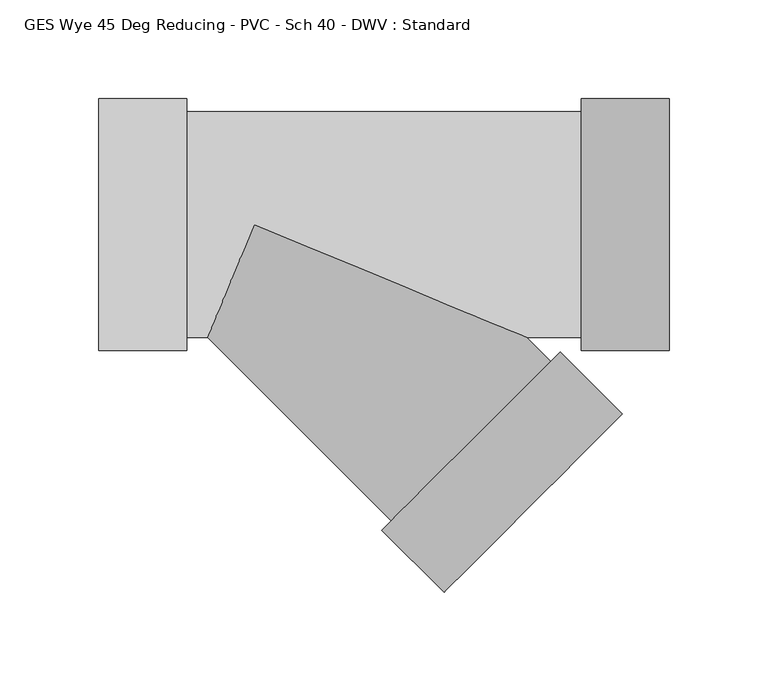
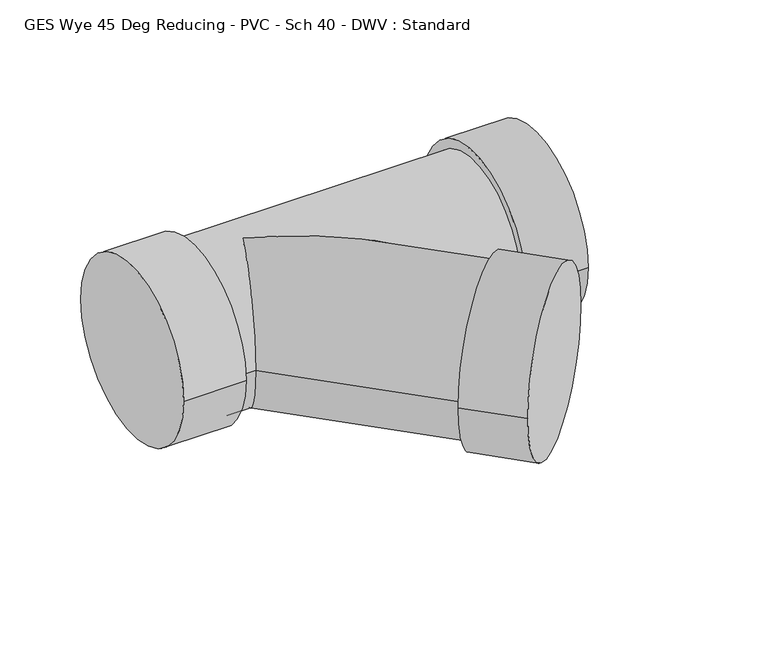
"""IFC4 building model written with IfcOpenShell, lengths in millimetres: pipe fitting geometry, GES Wye 45 Deg Reducing - PVC - Sch 40 - DWV : Standard."""

from ifc_helpers import new_model, si_unit, frame, origin, place, context, project, spatial, circle_curve, ellipse_curve, source, transform, mapped, element, save
from ifc_brep_helpers import plane_surface, cylinder_surface, advanced_brep


def ges_wye_45_deg_reducing_pvc_sch_40_dwv_standard_4e502147(model_context):
    return source(origin(), model_context, "Body", "AdvancedBrep", [
        advanced_brep(
        [(-34.2622187, 63.754, 0.0), (-34.2622187, -63.754, 0.0), (-34.2622187, 57.15, 0.0), (-34.2622187, -57.15, 0.0), (-78.7122187, 63.754, 0.0), (-78.7122187, -63.754, 0.0), (165.6159375, -63.754, 0.0), (165.6159375, 63.754, 0.0), (165.6159375, -57.15, 0.0), (165.6159375, 57.15, 0.0), (210.0659375, -63.754, 0.0), (210.0659375, 63.754, 0.0), (137.9790209, -57.15, 0.0), (0.0, 0.0, -57.15), (-23.6711529, -57.15, 0.0), (0.0, 0.0, 57.15), (69.3074871, -150.1222401, 0.0), (150.1270105, -69.2971534, 0.0), (64.6379146, -154.792134, 0.0), (154.7965829, -64.6272595, 0.0), (96.0698928, -186.2219487, 0.0), (186.2285611, -96.0570742, 0.0)],
        [
            (0, 1, circle_curve(frame((-34.2622187, 0.0, 0.0), z_axis=(1.0, 0.0, 0.0), x_axis=(0.0, -1.0, 0.0)), 63.754)),
            (1, 0, circle_curve(frame((-34.2622187, 0.0, 0.0), z_axis=(1.0, 0.0, 0.0), x_axis=(0.0, -1.0, 0.0)), 63.754)),
            (2, 3, circle_curve(frame((-34.2622187, 0.0, 0.0), z_axis=(-1.0, 0.0, 0.0), x_axis=(0.0, 0.0, -1.0)), 57.15)),
            (3, 2, circle_curve(frame((-34.2622187, 0.0, 0.0), z_axis=(-1.0, 0.0, 0.0), x_axis=(0.0, 0.0, 1.0)), 57.15)),
            (4, 5, circle_curve(frame((-78.7122187, 0.0, 0.0), z_axis=(-1.0, 0.0, 0.0), x_axis=(0.0, -1.0, 0.0)), 63.754)),
            (5, 4, circle_curve(frame((-78.7122187, 0.0, 0.0), z_axis=(-1.0, 0.0, 0.0), x_axis=(0.0, -1.0, 0.0)), 63.754)),
            (0, 4),
            (5, 1),
            (6, 7, circle_curve(frame((165.6159375, 0.0, 0.0), z_axis=(-1.0, 0.0, 0.0), x_axis=(0.0, 1.0, 0.0)), 63.754)),
            (7, 6, circle_curve(frame((165.6159375, 0.0, 0.0), z_axis=(-1.0, 0.0, 0.0), x_axis=(0.0, 1.0, 0.0)), 63.754)),
            (8, 9, circle_curve(frame((165.6159375, 0.0, 0.0), z_axis=(1.0, 0.0, 0.0), x_axis=(0.0, 0.0, -1.0)), 57.15)),
            (9, 8, circle_curve(frame((165.6159375, 0.0, 0.0), z_axis=(1.0, 0.0, 0.0), x_axis=(0.0, 0.0, 1.0)), 57.15)),
            (10, 11, circle_curve(frame((210.0659375, 0.0, 0.0), z_axis=(1.0, 0.0, 0.0), x_axis=(0.0, 1.0, 0.0)), 63.754)),
            (11, 10, circle_curve(frame((210.0659375, 0.0, 0.0), z_axis=(1.0, 0.0, 0.0), x_axis=(0.0, 1.0, 0.0)), 63.754)),
            (6, 10),
            (11, 7),
            (2, 9),
            (8, 12),
            (12, 13, ellipse_curve(frame((0.0, 0.0, 0.0), z_axis=(0.3826675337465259, 0.9238861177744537, 0.0), x_axis=(0.9238861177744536, -0.382667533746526, 0.0)), 149.3463515, 57.15)),
            (13, 14, ellipse_curve(frame((0.0, 0.0, 0.0), z_axis=(-0.9238861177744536, 0.38266753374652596, 0.0), x_axis=(0.38266753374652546, 0.9238861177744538, 0.0)), 61.8582733, 57.15)),
            (14, 3),
            (14, 15, ellipse_curve(frame((0.0, 0.0, 0.0), z_axis=(-0.9238861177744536, 0.38266753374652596, 0.0), x_axis=(0.38266753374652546, 0.9238861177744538, 0.0)), 61.8582733, 57.15)),
            (15, 12, ellipse_curve(frame((0.0, 0.0, 0.0), z_axis=(0.3826675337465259, 0.9238861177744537, 0.0), x_axis=(0.9238861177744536, -0.382667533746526, 0.0)), 149.3463515, 57.15)),
            (14, 16),
            (16, 17, circle_curve(frame((109.7172488, -109.7096968, 0.0), z_axis=(-0.7071311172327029, 0.7070824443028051, 0.0), x_axis=(0.7070824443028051, 0.7071311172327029, 0.0)), 57.15)),
            (17, 12),
            (17, 16, circle_curve(frame((109.7172488, -109.7096968, 0.0), z_axis=(-0.7071311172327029, 0.7070824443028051, 0.0), x_axis=(0.7070824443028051, 0.7071311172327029, 0.0)), 57.15)),
            (18, 19, circle_curve(frame((109.7172488, -109.7096968, 0.0), z_axis=(-0.7071311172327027, 0.7070824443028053, 0.0), x_axis=(0.7070824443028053, 0.7071311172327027, 0.0)), 63.754)),
            (19, 18, circle_curve(frame((109.7172488, -109.7096968, 0.0), z_axis=(-0.7071311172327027, 0.7070824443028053, 0.0), x_axis=(0.7070824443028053, 0.7071311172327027, 0.0)), 63.754)),
            (20, 21, circle_curve(frame((141.1492269, -141.1395114, 0.0), z_axis=(0.7071311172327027, -0.7070824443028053, 0.0), x_axis=(0.7070824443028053, 0.7071311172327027, 0.0)), 63.754)),
            (21, 20, circle_curve(frame((141.1492269, -141.1395114, 0.0), z_axis=(0.7071311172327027, -0.7070824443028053, 0.0), x_axis=(0.7070824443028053, 0.7071311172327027, 0.0)), 63.754)),
            (18, 20),
            (21, 19),
        ],
        [
            plane_surface(frame((-34.2622187, 0.0, 0.0), z_axis=(1.0, 0.0, 0.0), x_axis=(0.0, 0.0, 1.0))),
            plane_surface(frame((-78.7122187, 0.0, 0.0), z_axis=(-1.0, 0.0, 0.0), x_axis=(0.0, 0.0, 1.0))),
            cylinder_surface(frame((-34.2622187, 0.0, 0.0), z_axis=(1.0, 0.0, 0.0), x_axis=(0.0, -1.0, 0.0)), 63.754),
            plane_surface(frame((165.6159375, 0.0, 0.0), z_axis=(-1.0, 0.0, 0.0), x_axis=(0.0, 0.0, 1.0))),
            plane_surface(frame((210.0659375, 0.0, 0.0), z_axis=(1.0, 0.0, 0.0), x_axis=(0.0, 0.0, 1.0))),
            cylinder_surface(frame((165.6159375, 0.0, 0.0), z_axis=(-1.0, 0.0, 0.0), x_axis=(0.0, 1.0, 0.0)), 63.754),
            cylinder_surface(frame((-34.2622187, 0.0, 0.0), z_axis=(1.0, 0.0, 0.0), x_axis=(0.0, 0.0, -1.0)), 57.15),
            cylinder_surface(frame((-34.2622187, 0.0, 0.0), z_axis=(1.0, 0.0, 0.0), x_axis=(0.0, 0.0, 1.0)), 57.15),
            cylinder_surface(frame((0.0, 0.0, 0.0), z_axis=(-0.7071311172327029, 0.7070824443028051, 0.0), x_axis=(0.7070824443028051, 0.7071311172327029, 0.0)), 57.15),
            plane_surface(frame((109.7172488, -109.7096968, 0.0), z_axis=(-0.7071311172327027, 0.7070824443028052, 0.0), x_axis=(0.0, 0.0, 1.0))),
            plane_surface(frame((141.1492269, -141.1395114, 0.0), z_axis=(0.7071311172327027, -0.7070824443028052, 0.0), x_axis=(0.0, 0.0, 1.0))),
            cylinder_surface(frame((109.7172488, -109.7096968, 0.0), z_axis=(-0.7071311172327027, 0.7070824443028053, 0.0), x_axis=(0.7070824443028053, 0.7071311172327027, 0.0)), 63.754),
        ],
        [
            (0, [[1, 2], [3, 4]]),
            (1, [[5, 6]]),
            (2, [[-1, 7, -6, 8]]),
            (2, [[-2, -8, -5, -7]]),
            (3, [[9, 10], [11, 12]]),
            (4, [[13, 14]]),
            (5, [[-9, 15, -14, 16]]),
            (5, [[-10, -16, -13, -15]]),
            (6, [[17, -11, 18, 19, 20, 21, -3]]),
            (7, [[-17, -4, -21, 22, 23, -18, -12]]),
            (8, [[24, 25, 26, -23, -22]]),
            (8, [[-24, -20, -19, -26, 27]]),
            (9, [[28, 29], [-25, -27]]),
            (10, [[30, 31]]),
            (11, [[-28, 32, -31, 33]]),
            (11, [[-29, -33, -30, -32]]),
        ],
    ),
    ])


if __name__ == "__main__":
    model = new_model("IFC4")
    model_context = context("Model", 3, world=origin())
    ifc_project = project(units=[si_unit("LENGTHUNIT", "METRE", prefix="MILLI")], contexts=[model_context])
    site = spatial("IfcSite", under=ifc_project)
    building = spatial("IfcBuilding", under=site)
    placement = place(None, origin())
    ges_wye_45_deg_reducing_pvc_sch_40_dwv_standard_shape = ges_wye_45_deg_reducing_pvc_sch_40_dwv_standard_4e502147(model_context)
    element("IfcPipeFitting", 1, ObjectType="GES Wye 45 Deg Reducing - PVC - Sch 40 - DWV : Standard", at=placement, inside=building, context=model_context, shape_type="MappedRepresentation", body=[
        mapped(ges_wye_45_deg_reducing_pvc_sch_40_dwv_standard_shape, transform((0.0, 0.0, 0.0), x_axis=(1.0, 0.0, 0.0), y_axis=(0.0, 1.0, 0.0), z_axis=(0.0, 0.0, 1.0))),
    ])
    save(model, "model.ifc")
